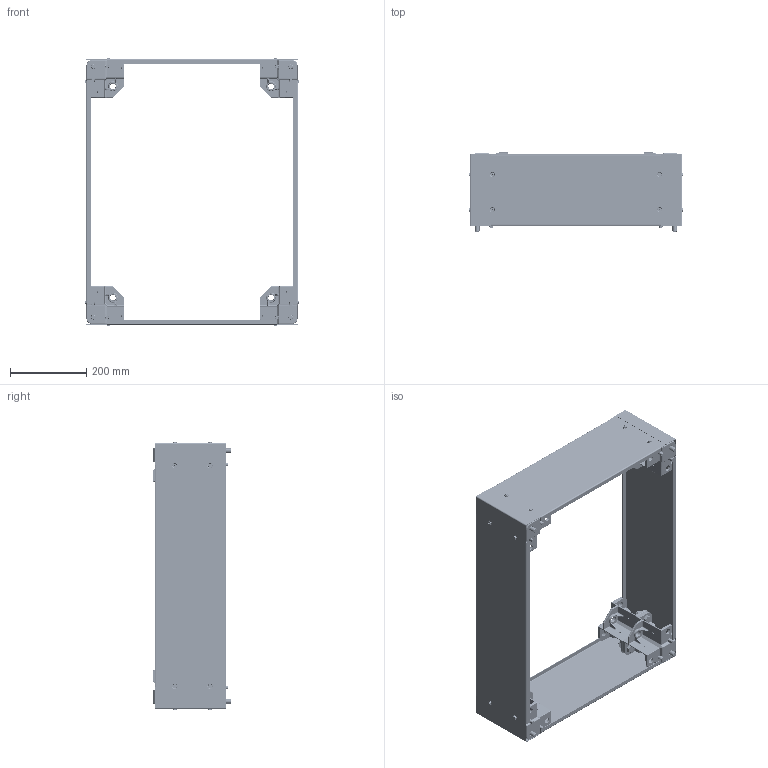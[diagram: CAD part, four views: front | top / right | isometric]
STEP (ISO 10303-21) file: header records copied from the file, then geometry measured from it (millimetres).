
FILE_DESCRIPTION (( 'STEP AP203' ), '1' );
FILE_NAME ('ppb276.STEP', '2010-09-01T15:18:14', ( 'Hoffman User' ), ( 'Hoffman Enclosures' ), 'SwSTEP 2.0', 'SolidWorks 2009', '' );
FILE_SCHEMA (( 'CONFIG_CONTROL_DESIGN' ));
Products named in the file (9): 87551444; 87551429; 99416882_Hex Nut  M12; ppb276; 60127131_60127131; 87541184_FLEXIBLE; 52312101_DIN 6797-A13; 87540699_ Hex cap screw, M12 x 1.75 x 35; 87547883_87547883
Assembly tree (61 placements, depth 3):
  ppb276
    60127131_60127131  x8
    87551444  x2
    87551429  x2
    87541184_FLEXIBLE
      87540699_ Hex cap screw, M12 x 1.75 x 35  x12
      87547883_87547883  x16
      52312101_DIN 6797-A13  x12
      99416882_Hex Nut  M12  x8
Bounding box: 564.13 x 206.5 x 704.13 mm (x, y, z)
Volume: 2134724.3 mm3; surface area: 1629794.3 mm2
Topology: 60 solids, 60 shells, 8096 faces, 19588 edges, 11480 vertices
Faces by surface type: cylinder 2396, plane 2212, cone 1888, bspline 1032, torus 312, sphere 256
Entity records: 45022 total; most frequent: CARTESIAN_POINT 20058, ORIENTED_EDGE 4808, DIRECTION 4677, EDGE_CURVE 2404, AXIS2_PLACEMENT_3D 1820, VERTEX_POINT 1435, EDGE_LOOP 1085, VECTOR 1037
